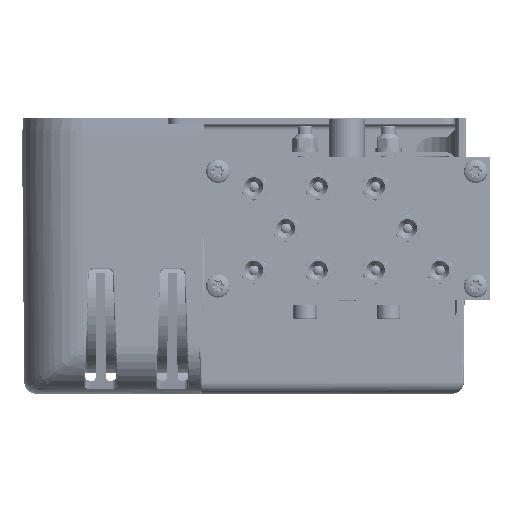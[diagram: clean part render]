
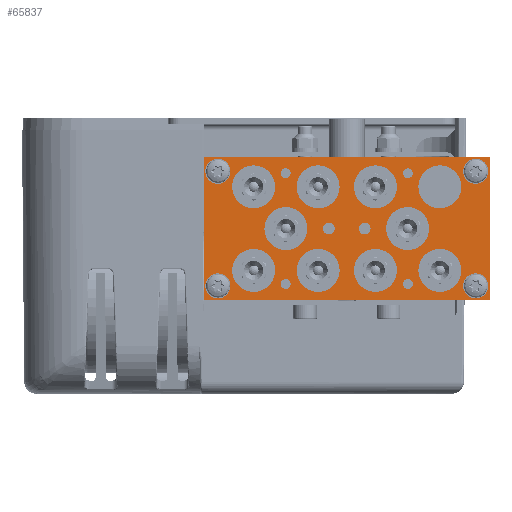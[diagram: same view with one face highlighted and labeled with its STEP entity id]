
A CAD part, left-side view. The second image highlights one B-rep face of the part: STEP entity #65837.
In plain terms, the highlighted planar face has unit normal (-1, 0, 0) as drawn and (0, 0, 1) by its records, which use the part's own axes.
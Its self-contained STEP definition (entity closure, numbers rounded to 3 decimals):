
#5941=LINE('',#113451,#8672);
#5945=LINE('',#113462,#8676);
#5949=LINE('',#113607,#8680);
#5950=LINE('',#113608,#8681);
#8672=VECTOR('',#76856,1000.);
#8676=VECTOR('',#76864,1000.);
#8680=VECTOR('',#77024,1000.);
#8681=VECTOR('',#77025,1000.);
#10804=PLANE('',#69789);
#16241=ORIENTED_EDGE('',*,*,#29917,.F.);
#16242=ORIENTED_EDGE('',*,*,#29918,.F.);
#16243=ORIENTED_EDGE('',*,*,#29919,.F.);
#16244=ORIENTED_EDGE('',*,*,#29920,.F.);
#16245=ORIENTED_EDGE('',*,*,#29921,.F.);
#16246=ORIENTED_EDGE('',*,*,#29922,.F.);
#16247=ORIENTED_EDGE('',*,*,#29923,.T.);
#16248=ORIENTED_EDGE('',*,*,#29924,.T.);
#16249=ORIENTED_EDGE('',*,*,#29925,.T.);
#16250=ORIENTED_EDGE('',*,*,#29926,.T.);
#16251=ORIENTED_EDGE('',*,*,#29927,.T.);
#16252=ORIENTED_EDGE('',*,*,#29928,.T.);
#16253=ORIENTED_EDGE('',*,*,#29929,.T.);
#16254=ORIENTED_EDGE('',*,*,#29859,.T.);
#16255=ORIENTED_EDGE('',*,*,#29930,.T.);
#16256=ORIENTED_EDGE('',*,*,#29864,.T.);
#16257=ORIENTED_EDGE('',*,*,#29931,.T.);
#16258=ORIENTED_EDGE('',*,*,#29932,.T.);
#16259=ORIENTED_EDGE('',*,*,#29933,.T.);
#16260=ORIENTED_EDGE('',*,*,#29934,.T.);
#16261=ORIENTED_EDGE('',*,*,#29935,.T.);
#16262=ORIENTED_EDGE('',*,*,#29936,.T.);
#16263=ORIENTED_EDGE('',*,*,#29937,.T.);
#16264=ORIENTED_EDGE('',*,*,#29938,.T.);
#29859=EDGE_CURVE('',#36982,#36981,#5941,.T.);
#29864=EDGE_CURVE('',#36987,#36986,#5945,.T.);
#29917=EDGE_CURVE('',#37037,#37037,#41501,.T.);
#29918=EDGE_CURVE('',#37038,#37038,#41502,.T.);
#29919=EDGE_CURVE('',#37039,#37039,#41503,.T.);
#29920=EDGE_CURVE('',#37040,#37040,#41504,.T.);
#29921=EDGE_CURVE('',#37041,#37041,#41505,.T.);
#29922=EDGE_CURVE('',#37042,#37042,#41506,.T.);
#29923=EDGE_CURVE('',#37043,#37043,#41507,.T.);
#29924=EDGE_CURVE('',#37044,#37044,#41508,.T.);
#29925=EDGE_CURVE('',#37045,#37045,#41509,.T.);
#29926=EDGE_CURVE('',#37046,#37046,#41510,.T.);
#29927=EDGE_CURVE('',#37047,#37047,#41511,.T.);
#29928=EDGE_CURVE('',#37048,#37048,#41512,.T.);
#29929=EDGE_CURVE('',#37049,#37049,#41513,.T.);
#29930=EDGE_CURVE('',#36981,#36987,#5949,.T.);
#29931=EDGE_CURVE('',#36986,#36982,#5950,.T.);
#29932=EDGE_CURVE('',#37050,#37050,#41514,.T.);
#29933=EDGE_CURVE('',#37051,#37051,#41515,.T.);
#29934=EDGE_CURVE('',#37052,#37052,#41516,.T.);
#29935=EDGE_CURVE('',#37053,#37053,#41517,.T.);
#29936=EDGE_CURVE('',#37054,#37054,#41518,.T.);
#29937=EDGE_CURVE('',#37055,#37055,#41519,.T.);
#29938=EDGE_CURVE('',#37056,#37056,#41520,.T.);
#36981=VERTEX_POINT('',#113450);
#36982=VERTEX_POINT('',#113452);
#36986=VERTEX_POINT('',#113461);
#36987=VERTEX_POINT('',#113463);
#37037=VERTEX_POINT('',#113582);
#37038=VERTEX_POINT('',#113584);
#37039=VERTEX_POINT('',#113586);
#37040=VERTEX_POINT('',#113588);
#37041=VERTEX_POINT('',#113590);
#37042=VERTEX_POINT('',#113592);
#37043=VERTEX_POINT('',#113594);
#37044=VERTEX_POINT('',#113596);
#37045=VERTEX_POINT('',#113598);
#37046=VERTEX_POINT('',#113600);
#37047=VERTEX_POINT('',#113602);
#37048=VERTEX_POINT('',#113604);
#37049=VERTEX_POINT('',#113606);
#37050=VERTEX_POINT('',#113610);
#37051=VERTEX_POINT('',#113612);
#37052=VERTEX_POINT('',#113614);
#37053=VERTEX_POINT('',#113616);
#37054=VERTEX_POINT('',#113618);
#37055=VERTEX_POINT('',#113620);
#37056=VERTEX_POINT('',#113622);
#41501=CIRCLE('',#69790,2.067);
#41502=CIRCLE('',#69791,2.067);
#41503=CIRCLE('',#69792,2.067);
#41504=CIRCLE('',#69793,2.067);
#41505=CIRCLE('',#69794,2.459);
#41506=CIRCLE('',#69795,2.459);
#41507=CIRCLE('',#69796,9.);
#41508=CIRCLE('',#69797,9.);
#41509=CIRCLE('',#69798,9.);
#41510=CIRCLE('',#69799,9.);
#41511=CIRCLE('',#69800,9.);
#41512=CIRCLE('',#69801,5.25);
#41513=CIRCLE('',#69802,5.25);
#41514=CIRCLE('',#69803,5.25);
#41515=CIRCLE('',#69804,9.);
#41516=CIRCLE('',#69805,9.);
#41517=CIRCLE('',#69806,9.);
#41518=CIRCLE('',#69807,9.);
#41519=CIRCLE('',#69808,9.);
#41520=CIRCLE('',#69809,5.25);
#44042=EDGE_LOOP('',(#16241));
#44043=EDGE_LOOP('',(#16242));
#44044=EDGE_LOOP('',(#16243));
#44045=EDGE_LOOP('',(#16244));
#44046=EDGE_LOOP('',(#16245));
#44047=EDGE_LOOP('',(#16246));
#44048=EDGE_LOOP('',(#16247));
#44049=EDGE_LOOP('',(#16248));
#44050=EDGE_LOOP('',(#16249));
#44051=EDGE_LOOP('',(#16250));
#44052=EDGE_LOOP('',(#16251));
#44053=EDGE_LOOP('',(#16252));
#44054=EDGE_LOOP('',(#16253));
#44055=EDGE_LOOP('',(#16254,#16255,#16256,#16257));
#44056=EDGE_LOOP('',(#16258));
#44057=EDGE_LOOP('',(#16259));
#44058=EDGE_LOOP('',(#16260));
#44059=EDGE_LOOP('',(#16261));
#44060=EDGE_LOOP('',(#16262));
#44061=EDGE_LOOP('',(#16263));
#44062=EDGE_LOOP('',(#16264));
#48060=FACE_BOUND('',#44042,.T.);
#48061=FACE_BOUND('',#44043,.T.);
#48062=FACE_BOUND('',#44044,.T.);
#48063=FACE_BOUND('',#44045,.T.);
#48064=FACE_BOUND('',#44046,.T.);
#48065=FACE_BOUND('',#44047,.T.);
#48066=FACE_BOUND('',#44048,.T.);
#48067=FACE_BOUND('',#44049,.T.);
#48068=FACE_BOUND('',#44050,.T.);
#48069=FACE_BOUND('',#44051,.T.);
#48070=FACE_BOUND('',#44052,.T.);
#48071=FACE_BOUND('',#44053,.T.);
#48072=FACE_BOUND('',#44054,.T.);
#48073=FACE_BOUND('',#44055,.T.);
#48074=FACE_BOUND('',#44056,.T.);
#48075=FACE_BOUND('',#44057,.T.);
#48076=FACE_BOUND('',#44058,.T.);
#48077=FACE_BOUND('',#44059,.T.);
#48078=FACE_BOUND('',#44060,.T.);
#48079=FACE_BOUND('',#44061,.T.);
#48080=FACE_BOUND('',#44062,.T.);
#65837=ADVANCED_FACE('',(#48060,#48061,#48062,#48063,#48064,#48065,#48066,
#48067,#48068,#48069,#48070,#48071,#48072,#48073,#48074,#48075,#48076,#48077,
#48078,#48079,#48080),#10804,.T.);
#69789=AXIS2_PLACEMENT_3D('',#113580,#76996,#76997);
#69790=AXIS2_PLACEMENT_3D('',#113581,#76998,#76999);
#69791=AXIS2_PLACEMENT_3D('',#113583,#77000,#77001);
#69792=AXIS2_PLACEMENT_3D('',#113585,#77002,#77003);
#69793=AXIS2_PLACEMENT_3D('',#113587,#77004,#77005);
#69794=AXIS2_PLACEMENT_3D('',#113589,#77006,#77007);
#69795=AXIS2_PLACEMENT_3D('',#113591,#77008,#77009);
#69796=AXIS2_PLACEMENT_3D('',#113593,#77010,#77011);
#69797=AXIS2_PLACEMENT_3D('',#113595,#77012,#77013);
#69798=AXIS2_PLACEMENT_3D('',#113597,#77014,#77015);
#69799=AXIS2_PLACEMENT_3D('',#113599,#77016,#77017);
#69800=AXIS2_PLACEMENT_3D('',#113601,#77018,#77019);
#69801=AXIS2_PLACEMENT_3D('',#113603,#77020,#77021);
#69802=AXIS2_PLACEMENT_3D('',#113605,#77022,#77023);
#69803=AXIS2_PLACEMENT_3D('',#113609,#77026,#77027);
#69804=AXIS2_PLACEMENT_3D('',#113611,#77028,#77029);
#69805=AXIS2_PLACEMENT_3D('',#113613,#77030,#77031);
#69806=AXIS2_PLACEMENT_3D('',#113615,#77032,#77033);
#69807=AXIS2_PLACEMENT_3D('',#113617,#77034,#77035);
#69808=AXIS2_PLACEMENT_3D('',#113619,#77036,#77037);
#69809=AXIS2_PLACEMENT_3D('',#113621,#77038,#77039);
#76856=DIRECTION('',(-1.,0.,0.));
#76864=DIRECTION('',(1.,0.,0.));
#76996=DIRECTION('',(0.,0.,1.));
#76997=DIRECTION('',(1.,0.,0.));
#76998=DIRECTION('',(0.,0.,1.));
#76999=DIRECTION('',(1.,0.,0.));
#77000=DIRECTION('',(0.,0.,1.));
#77001=DIRECTION('',(1.,0.,0.));
#77002=DIRECTION('',(0.,0.,1.));
#77003=DIRECTION('',(1.,0.,0.));
#77004=DIRECTION('',(0.,0.,1.));
#77005=DIRECTION('',(1.,0.,0.));
#77006=DIRECTION('',(0.,0.,1.));
#77007=DIRECTION('',(1.,0.,0.));
#77008=DIRECTION('',(0.,0.,1.));
#77009=DIRECTION('',(1.,0.,0.));
#77010=DIRECTION('',(0.,0.,-1.));
#77011=DIRECTION('',(1.,0.,0.));
#77012=DIRECTION('',(0.,0.,-1.));
#77013=DIRECTION('',(1.,0.,0.));
#77014=DIRECTION('',(0.,0.,-1.));
#77015=DIRECTION('',(1.,0.,0.));
#77016=DIRECTION('',(0.,0.,-1.));
#77017=DIRECTION('',(1.,0.,0.));
#77018=DIRECTION('',(0.,0.,-1.));
#77019=DIRECTION('',(1.,0.,0.));
#77020=DIRECTION('',(0.,0.,-1.));
#77021=DIRECTION('',(1.,0.,0.));
#77022=DIRECTION('',(0.,0.,-1.));
#77023=DIRECTION('',(1.,0.,0.));
#77024=DIRECTION('',(0.,-1.,0.));
#77025=DIRECTION('',(0.,1.,0.));
#77026=DIRECTION('',(0.,0.,-1.));
#77027=DIRECTION('',(1.,0.,0.));
#77028=DIRECTION('',(0.,0.,-1.));
#77029=DIRECTION('',(1.,0.,0.));
#77030=DIRECTION('',(0.,0.,-1.));
#77031=DIRECTION('',(1.,0.,0.));
#77032=DIRECTION('',(0.,0.,-1.));
#77033=DIRECTION('',(1.,0.,0.));
#77034=DIRECTION('',(0.,0.,-1.));
#77035=DIRECTION('',(1.,0.,0.));
#77036=DIRECTION('',(0.,0.,-1.));
#77037=DIRECTION('',(1.,0.,0.));
#77038=DIRECTION('',(0.,0.,-1.));
#77039=DIRECTION('',(1.,0.,0.));
#113450=CARTESIAN_POINT('',(-60.,30.,15.));
#113451=CARTESIAN_POINT('',(60.,30.,15.));
#113452=CARTESIAN_POINT('',(60.,30.,15.));
#113461=CARTESIAN_POINT('',(60.,-30.,15.));
#113462=CARTESIAN_POINT('',(-60.,-30.,15.));
#113463=CARTESIAN_POINT('',(-60.,-30.,15.));
#113580=CARTESIAN_POINT('',(-60.,30.,15.));
#113581=CARTESIAN_POINT('',(25.6,23.2,15.));
#113582=CARTESIAN_POINT('',(27.667,23.2,15.));
#113583=CARTESIAN_POINT('',(-25.6,23.2,15.));
#113584=CARTESIAN_POINT('',(-23.533,23.2,15.));
#113585=CARTESIAN_POINT('',(-25.6,-23.2,15.));
#113586=CARTESIAN_POINT('',(-23.533,-23.2,15.));
#113587=CARTESIAN_POINT('',(25.6,-23.2,15.));
#113588=CARTESIAN_POINT('',(27.667,-23.2,15.));
#113589=CARTESIAN_POINT('',(7.5,0.,15.));
#113590=CARTESIAN_POINT('',(9.959,0.,15.));
#113591=CARTESIAN_POINT('',(-7.5,0.,15.));
#113592=CARTESIAN_POINT('',(-5.041,0.,15.));
#113593=CARTESIAN_POINT('',(25.5,0.,15.));
#113594=CARTESIAN_POINT('',(34.5,0.,15.));
#113595=CARTESIAN_POINT('',(39.,17.5,15.));
#113596=CARTESIAN_POINT('',(48.,17.5,15.));
#113597=CARTESIAN_POINT('',(-39.,-17.5,15.));
#113598=CARTESIAN_POINT('',(-30.,-17.5,15.));
#113599=CARTESIAN_POINT('',(-12.,-17.5,15.));
#113600=CARTESIAN_POINT('',(-3.,-17.5,15.));
#113601=CARTESIAN_POINT('',(12.,17.5,15.));
#113602=CARTESIAN_POINT('',(21.,17.5,15.));
#113603=CARTESIAN_POINT('',(-54.,-24.,15.));
#113604=CARTESIAN_POINT('',(-48.75,-24.,15.));
#113605=CARTESIAN_POINT('',(54.,24.,15.));
#113606=CARTESIAN_POINT('',(59.25,24.,15.));
#113607=CARTESIAN_POINT('',(-60.,30.,15.));
#113608=CARTESIAN_POINT('',(60.,-30.,15.));
#113609=CARTESIAN_POINT('',(54.,-24.,15.));
#113610=CARTESIAN_POINT('',(59.25,-24.,15.));
#113611=CARTESIAN_POINT('',(-12.,17.5,15.));
#113612=CARTESIAN_POINT('',(-3.,17.5,15.));
#113613=CARTESIAN_POINT('',(12.,-17.5,15.));
#113614=CARTESIAN_POINT('',(21.,-17.5,15.));
#113615=CARTESIAN_POINT('',(-39.,17.5,15.));
#113616=CARTESIAN_POINT('',(-30.,17.5,15.));
#113617=CARTESIAN_POINT('',(39.,-17.5,15.));
#113618=CARTESIAN_POINT('',(48.,-17.5,15.));
#113619=CARTESIAN_POINT('',(-25.5,0.,15.));
#113620=CARTESIAN_POINT('',(-16.5,0.,15.));
#113621=CARTESIAN_POINT('',(-54.,24.,15.));
#113622=CARTESIAN_POINT('',(-48.75,24.,15.));
